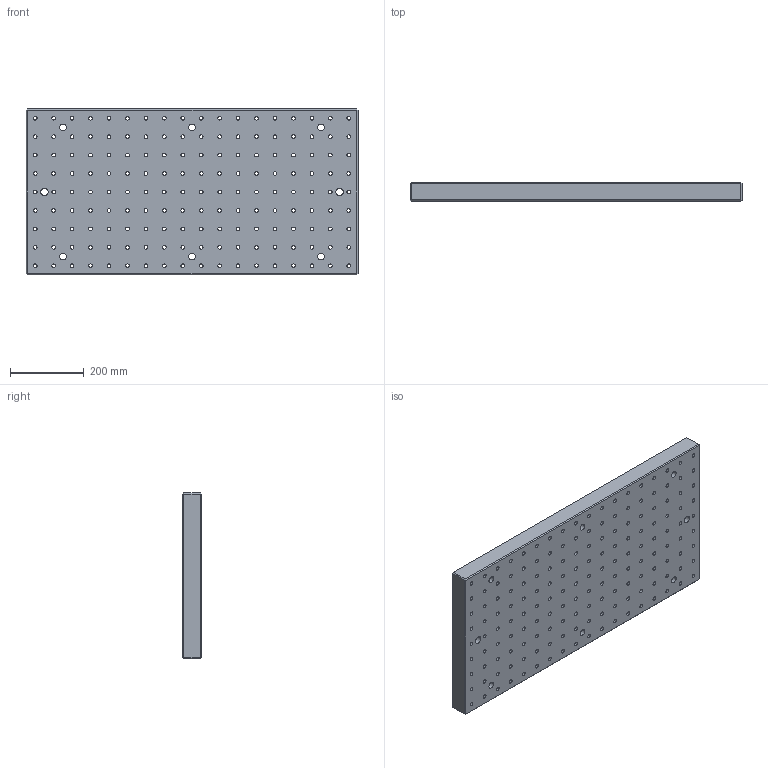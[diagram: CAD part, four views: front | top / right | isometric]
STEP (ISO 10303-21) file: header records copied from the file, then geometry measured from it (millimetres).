
FILE_DESCRIPTION((''),'2;1');
FILE_NAME('FG_WH_BASPL_RCGRDNP004','2026-05-19T10:07:07',('Admin'),(''),'CREO PARAMETRIC BY PTC INC, 2025010','CREO PARAMETRIC BY PTC INC, 2025010','');
FILE_SCHEMA(('CONFIG_CONTROL_DESIGN'));
Length unit declared in the file: millimetre
Products named in the file (1): FG_WH_BASPL_RCGRDNP004
Bounding box: 900 x 50 x 450 mm (x, y, z)
Volume: 19360148.4 mm3; surface area: 1356261 mm2
Topology: 1 solids, 163 shells, 1358 faces, 3384 edges, 2358 vertices
Faces by surface type: cylinder 1000, plane 356, cone 2
Entity records: 42503 total; most frequent: DIRECTION 8428, CARTESIAN_POINT 7101, ORIENTED_EDGE 6120, AXIS2_PLACEMENT_3D 3685, EDGE_CURVE 3384, VERTEX_POINT 2358, CIRCLE 2326, EDGE_LOOP 2028
